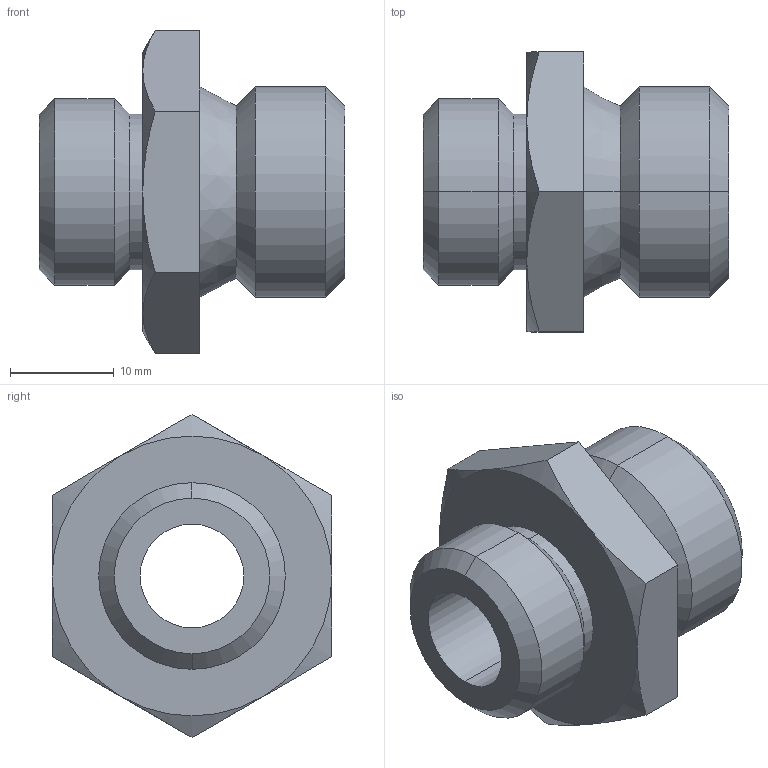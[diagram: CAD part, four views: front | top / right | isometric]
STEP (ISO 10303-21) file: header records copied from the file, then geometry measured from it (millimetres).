
FILE_DESCRIPTION(('starvars output'),'2;1');
FILE_NAME('E40096_3^3^.stp','16:21:39 2007/04/16',( 'Thomas Industrial Network Germany GmbH'),( 'Thomas Industrial Network Germany GmbH'),'unknown preprocess','ACIS' ,'unknown authorization');
FILE_SCHEMA(('CONFIG_CONTROL_DESIGN {UNKNOWN IMPLEMENTATION LEVEL}'));
Length unit declared in the file: millimetre
Products named in the file (1): PRODUCT_ID_44
Bounding box: 29.5 x 27 x 31.18 mm (x, y, z)
Volume: 7593.6 mm3; surface area: 3980.4 mm2
Topology: 1 solids, 1 shells, 34 faces, 72 edges, 42 vertices
Faces by surface type: cone 16, plane 10, cylinder 8
Entity records: 824 total; most frequent: ORIENTED_EDGE 144, CARTESIAN_POINT 141, DIRECTION 96, EDGE_CURVE 72, VERTEX_POINT 42, EDGE_LOOP 38, FACE_BOUND 38, ADVANCED_FACE 34
